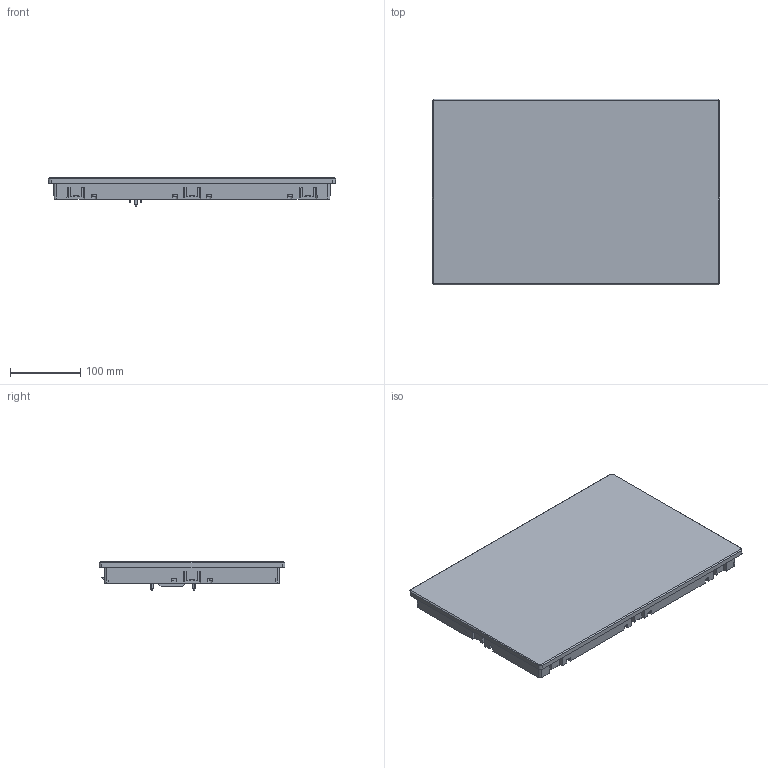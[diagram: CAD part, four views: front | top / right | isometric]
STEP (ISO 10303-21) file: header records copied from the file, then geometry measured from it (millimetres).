
FILE_DESCRIPTION (( 'STEP AP203' ), '1' );
FILE_NAME ('20200221_15w_niji_display_asm.STEP', '2020-04-01T15:18:58', ( 'Caca' ), ( '' ), 'SwSTEP 2.0', 'SolidWorks 2017', '' );
FILE_SCHEMA (( 'CONFIG_CONTROL_DESIGN' ));
Length unit declared in the file: millimetre
Products named in the file (1): 20200221_15w_niji_display_asm
Bounding box: 408 x 264 x 40 mm (x, y, z)
Volume: 2988391.6 mm3; surface area: 262852.4 mm2
Topology: 1 solids, 1 shells, 526 faces, 1359 edges, 902 vertices
Faces by surface type: plane 318, cylinder 117, cone 91
Entity records: 16229 total; most frequent: CARTESIAN_POINT 2941, DIRECTION 2784, ORIENTED_EDGE 2718, EDGE_CURVE 1359, LINE 928, AXIS2_PLACEMENT_3D 928, VECTOR 928, VERTEX_POINT 902
